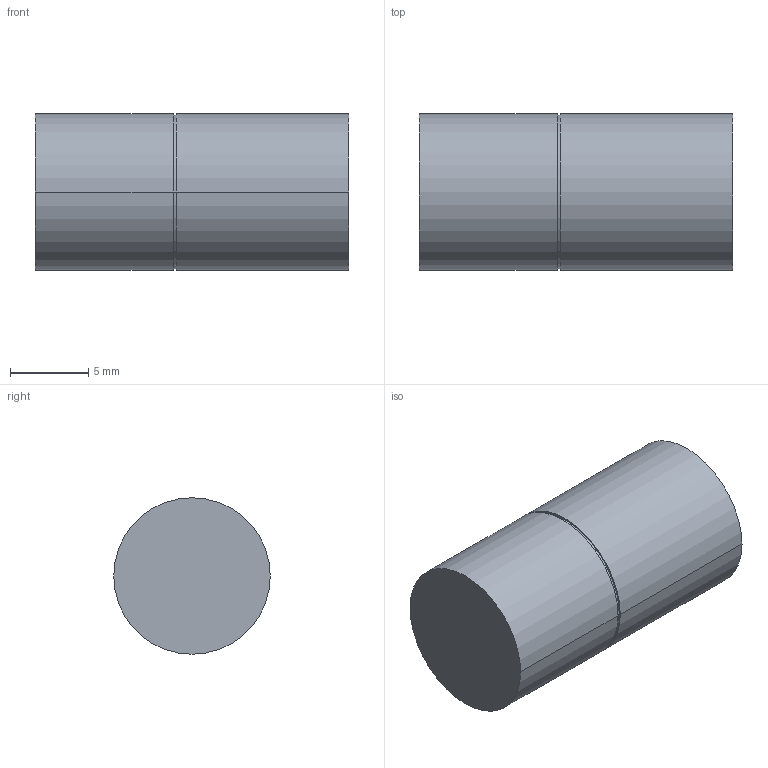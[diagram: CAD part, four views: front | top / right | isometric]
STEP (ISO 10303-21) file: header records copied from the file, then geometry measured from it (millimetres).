
FILE_DESCRIPTION((''),'2;1');
FILE_NAME('S601-1','2006-08-11T',('PAw'),(''),'PRO/ENGINEER BY PARAMETRIC TECHNOLOGY CORPORATION, 2004320','PRO/ENGINEER BY PARAMETRIC TECHNOLOGY CORPORATION, 2004320','');
FILE_SCHEMA(('CONFIG_CONTROL_DESIGN'));
Length unit declared in the file: millimetre
Products named in the file (1): S601-1
Bounding box: 20 x 10 x 10 mm (x, y, z)
Volume: 1570.2 mm3; surface area: 791.5 mm2
Topology: 1 solids, 1 shells, 10 faces, 18 edges, 12 vertices
Faces by surface type: cylinder 6, plane 4
Entity records: 292 total; most frequent: DIRECTION 50, CARTESIAN_POINT 40, ORIENTED_EDGE 36, AXIS2_PLACEMENT_3D 22, EDGE_CURVE 18, VERTEX_POINT 12, EDGE_LOOP 12, CIRCLE 12
